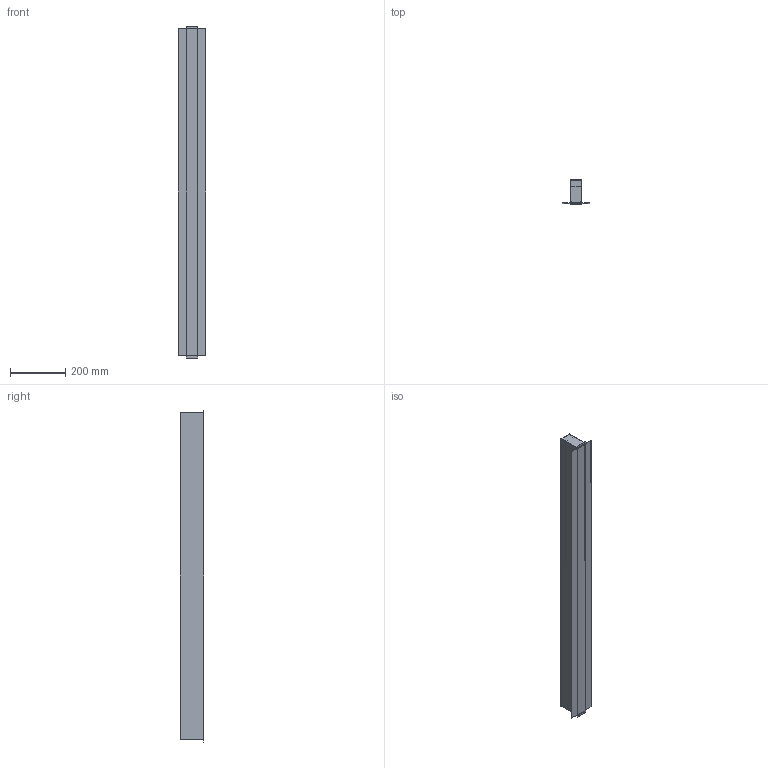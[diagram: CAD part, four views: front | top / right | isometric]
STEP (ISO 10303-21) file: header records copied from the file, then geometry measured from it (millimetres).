
FILE_DESCRIPTION(/* description */ (''),/* implementation_level */ '2;1');
FILE_NAME(/* name */ 'D:\_SHARED\_PROGETTI IN CORSO\Artemide\3D Semplificati\Algoritmo\ASM Semplificati\EXPORT MODELLI SEMPLIFICATI\02.ipt.stp',/* time_stamp */ '2018-02-23T06:07:12-08:00',/* author */ ('NEGRI'),/* organization */ (''),/* preprocessor_version */ 'ST-DEVELOPER v16.13',/* originating_system */ 'Autodesk Inventor 2018',/* authorisation */ '');
FILE_SCHEMA (('AUTOMOTIVE_DESIGN { 1 0 10303 214 3 1 1 }'));
Length unit declared in the file: metre
Products named in the file (1): 02.x_t
Bounding box: 100.3 x 85 x 1204.5 mm (x, y, z)
Volume: 1471263 mm3; surface area: 897492.7 mm2
Topology: 7 solids, 7 shells, 76 faces, 186 edges, 124 vertices
Faces by surface type: plane 60, cylinder 16
Entity records: 2276 total; most frequent: CARTESIAN_POINT 387, ORIENTED_EDGE 372, DIRECTION 372, EDGE_CURVE 186, LINE 154, VECTOR 154, VERTEX_POINT 124, AXIS2_PLACEMENT_3D 109
